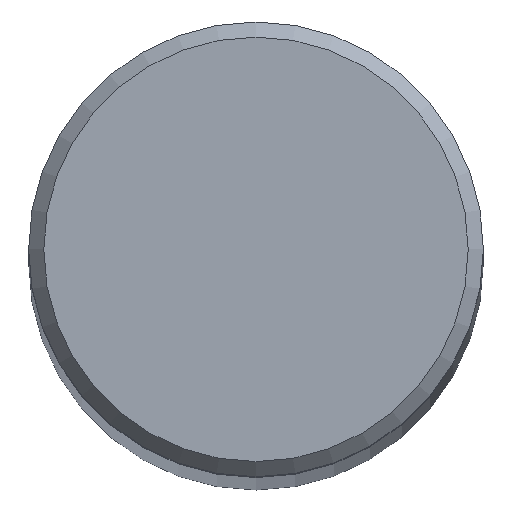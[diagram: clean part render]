
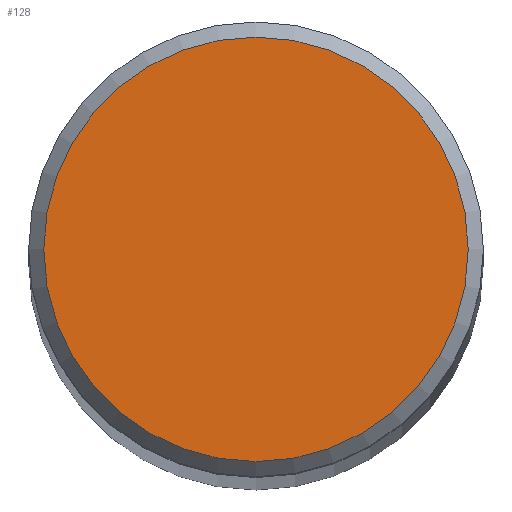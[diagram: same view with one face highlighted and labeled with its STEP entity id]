
A CAD part, top view. The second image highlights one B-rep face of the part: STEP entity #128.
In plain terms, the highlighted planar face has unit normal (0, 0, 1).
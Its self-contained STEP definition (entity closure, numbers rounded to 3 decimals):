
#15=PLANE('',#145);
#33=FACE_OUTER_BOUND('',#47,.T.);
#47=EDGE_LOOP('',(#102));
#65=CIRCLE('',#141,2.8);
#76=VERTEX_POINT('',#213);
#87=EDGE_CURVE('',#76,#76,#65,.T.);
#102=ORIENTED_EDGE('',*,*,#87,.F.);
#128=ADVANCED_FACE('',(#33),#15,.T.);
#141=AXIS2_PLACEMENT_3D('',#214,#167,#168);
#145=AXIS2_PLACEMENT_3D('',#220,#175,#176);
#167=DIRECTION('center_axis',(0.,0.,-1.));
#168=DIRECTION('ref_axis',(1.,0.,0.));
#175=DIRECTION('center_axis',(0.,0.,1.));
#176=DIRECTION('ref_axis',(1.,0.,0.));
#213=CARTESIAN_POINT('',(-2.8,0.,50.));
#214=CARTESIAN_POINT('Origin',(0.,0.,50.));
#220=CARTESIAN_POINT('Origin',(-3.,0.,50.));
